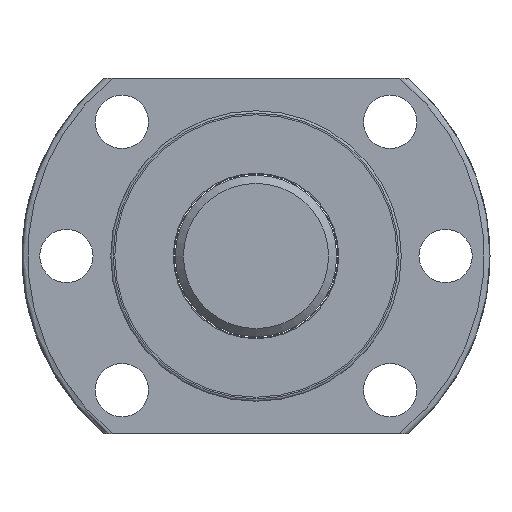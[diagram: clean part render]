
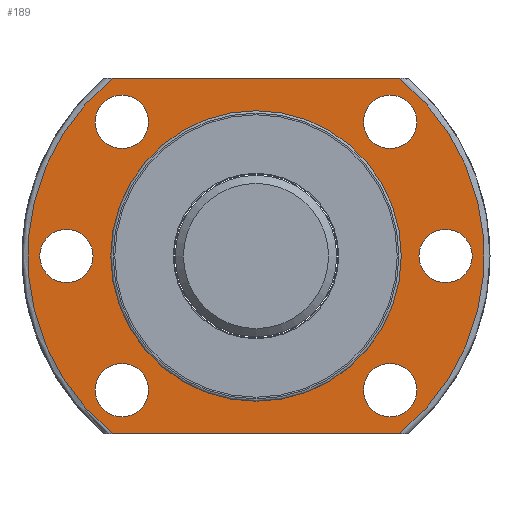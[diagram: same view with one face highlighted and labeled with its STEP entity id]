
A CAD part, left-side view. The second image highlights one B-rep face of the part: STEP entity #189.
In plain terms, the highlighted planar face has unit normal (-1, 0, 0).
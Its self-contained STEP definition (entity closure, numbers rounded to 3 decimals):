
#107=LINE('',#1286,#115);
#108=LINE('',#1290,#116);
#115=VECTOR('',#1001,1.);
#116=VECTOR('',#1004,1.);
#189=ADVANCED_FACE('',(#268,#269,#270,#271,#327,#272,#273,#274),#226,.F.);
#226=PLANE('',#836);
#268=FACE_BOUND('',#386,.T.);
#269=FACE_BOUND('',#387,.T.);
#270=FACE_BOUND('',#388,.T.);
#271=FACE_BOUND('',#389,.T.);
#272=FACE_BOUND('',#391,.T.);
#273=FACE_BOUND('',#392,.T.);
#274=FACE_BOUND('',#393,.T.);
#327=FACE_OUTER_BOUND('',#390,.T.);
#386=EDGE_LOOP('',(#502));
#387=EDGE_LOOP('',(#503));
#388=EDGE_LOOP('',(#504));
#389=EDGE_LOOP('',(#505));
#390=EDGE_LOOP('',(#506,#507,#508,#509));
#391=EDGE_LOOP('',(#510));
#392=EDGE_LOOP('',(#511));
#393=EDGE_LOOP('',(#512));
#502=ORIENTED_EDGE('',*,*,#686,.T.);
#503=ORIENTED_EDGE('',*,*,#687,.T.);
#504=ORIENTED_EDGE('',*,*,#688,.F.);
#505=ORIENTED_EDGE('',*,*,#689,.F.);
#506=ORIENTED_EDGE('',*,*,#671,.T.);
#507=ORIENTED_EDGE('',*,*,#690,.T.);
#508=ORIENTED_EDGE('',*,*,#691,.T.);
#509=ORIENTED_EDGE('',*,*,#692,.T.);
#510=ORIENTED_EDGE('',*,*,#693,.F.);
#511=ORIENTED_EDGE('',*,*,#694,.T.);
#512=ORIENTED_EDGE('',*,*,#695,.F.);
#607=VERTEX_POINT('',#1187);
#608=VERTEX_POINT('',#1189);
#620=VERTEX_POINT('',#1279);
#621=VERTEX_POINT('',#1281);
#622=VERTEX_POINT('',#1283);
#623=VERTEX_POINT('',#1285);
#624=VERTEX_POINT('',#1287);
#625=VERTEX_POINT('',#1289);
#626=VERTEX_POINT('',#1292);
#627=VERTEX_POINT('',#1294);
#628=VERTEX_POINT('',#1296);
#671=EDGE_CURVE('',#608,#607,#739,.T.);
#686=EDGE_CURVE('',#620,#620,#749,.T.);
#687=EDGE_CURVE('',#621,#621,#750,.T.);
#688=EDGE_CURVE('',#622,#622,#751,.T.);
#689=EDGE_CURVE('',#623,#623,#752,.T.);
#690=EDGE_CURVE('',#607,#624,#107,.T.);
#691=EDGE_CURVE('',#624,#625,#753,.T.);
#692=EDGE_CURVE('',#625,#608,#108,.T.);
#693=EDGE_CURVE('',#626,#626,#754,.T.);
#694=EDGE_CURVE('',#627,#627,#755,.T.);
#695=EDGE_CURVE('',#628,#628,#756,.T.);
#739=CIRCLE('',#815,28.3);
#749=CIRCLE('',#828,3.3);
#750=CIRCLE('',#829,3.3);
#751=CIRCLE('',#830,3.3);
#752=CIRCLE('',#831,18.);
#753=CIRCLE('',#832,28.3);
#754=CIRCLE('',#833,3.3);
#755=CIRCLE('',#834,3.3);
#756=CIRCLE('',#835,3.3);
#815=AXIS2_PLACEMENT_3D('',#1188,#965,#966);
#828=AXIS2_PLACEMENT_3D('',#1278,#993,#994);
#829=AXIS2_PLACEMENT_3D('',#1280,#995,#996);
#830=AXIS2_PLACEMENT_3D('',#1282,#997,#998);
#831=AXIS2_PLACEMENT_3D('',#1284,#999,#1000);
#832=AXIS2_PLACEMENT_3D('',#1288,#1002,#1003);
#833=AXIS2_PLACEMENT_3D('',#1291,#1005,#1006);
#834=AXIS2_PLACEMENT_3D('',#1293,#1007,#1008);
#835=AXIS2_PLACEMENT_3D('',#1295,#1009,#1010);
#836=AXIS2_PLACEMENT_3D('',#1297,#1011,#1012);
#965=DIRECTION('',(-1.,0.,0.));
#966=DIRECTION('',(0.,0.,-1.));
#993=DIRECTION('',(1.,0.,0.));
#994=DIRECTION('',(0.,0.,-1.));
#995=DIRECTION('',(1.,0.,0.));
#996=DIRECTION('',(0.,0.,-1.));
#997=DIRECTION('',(-1.,0.,0.));
#998=DIRECTION('',(0.,0.,-1.));
#999=DIRECTION('',(-1.,0.,0.));
#1000=DIRECTION('',(0.,0.,1.));
#1001=DIRECTION('',(0.,1.,0.));
#1002=DIRECTION('',(-1.,0.,0.));
#1003=DIRECTION('',(0.,0.,-1.));
#1004=DIRECTION('',(0.,-1.,0.));
#1005=DIRECTION('',(-1.,0.,0.));
#1006=DIRECTION('',(0.,0.,-1.));
#1007=DIRECTION('',(1.,0.,0.));
#1008=DIRECTION('',(0.,0.,-1.));
#1009=DIRECTION('',(-1.,0.,0.));
#1010=DIRECTION('',(0.,0.,-1.));
#1011=DIRECTION('',(1.,0.,0.));
#1012=DIRECTION('',(0.,0.,-1.));
#1187=CARTESIAN_POINT('',(39.,-17.801,22.));
#1188=CARTESIAN_POINT('',(39.,0.,0.));
#1189=CARTESIAN_POINT('',(39.,-17.801,-22.));
#1278=CARTESIAN_POINT('',(39.,23.5,0.));
#1279=CARTESIAN_POINT('',(39.,23.5,-3.3));
#1280=CARTESIAN_POINT('',(39.,16.617,16.617));
#1281=CARTESIAN_POINT('',(39.,16.617,13.317));
#1282=CARTESIAN_POINT('',(39.,-23.5,0.));
#1283=CARTESIAN_POINT('',(39.,-23.5,-3.3));
#1284=CARTESIAN_POINT('',(39.,0.,0.));
#1285=CARTESIAN_POINT('',(39.,0.,18.));
#1286=CARTESIAN_POINT('',(39.,-29.827,22.));
#1287=CARTESIAN_POINT('',(39.,17.801,22.));
#1288=CARTESIAN_POINT('',(39.,0.,0.));
#1289=CARTESIAN_POINT('',(39.,17.801,-22.));
#1290=CARTESIAN_POINT('',(39.,-29.827,-22.));
#1291=CARTESIAN_POINT('',(39.,-16.617,16.617));
#1292=CARTESIAN_POINT('',(39.,-16.617,13.317));
#1293=CARTESIAN_POINT('',(39.,-16.617,-16.617));
#1294=CARTESIAN_POINT('',(39.,-16.617,-19.917));
#1295=CARTESIAN_POINT('',(39.,16.617,-16.617));
#1296=CARTESIAN_POINT('',(39.,16.617,-19.917));
#1297=CARTESIAN_POINT('',(39.,-29.827,0.));
